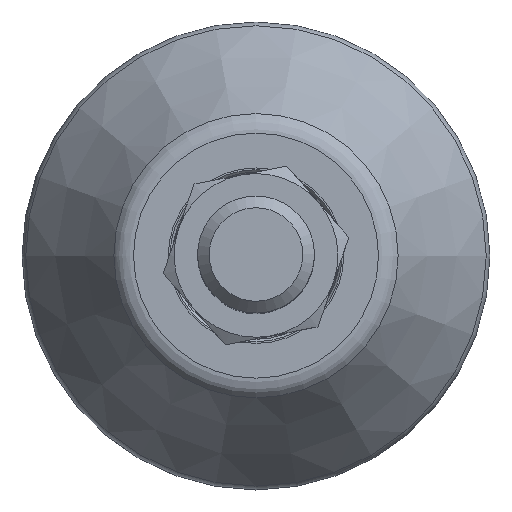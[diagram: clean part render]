
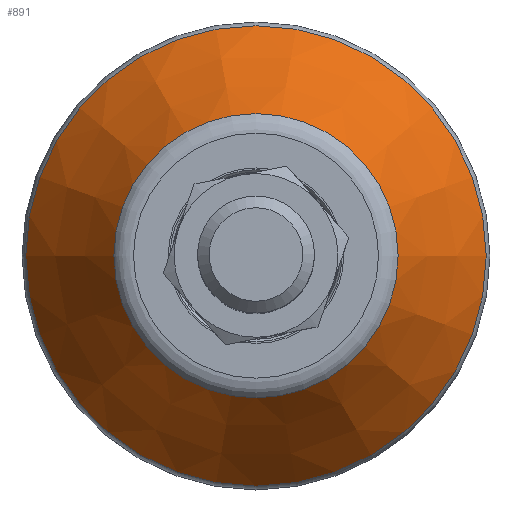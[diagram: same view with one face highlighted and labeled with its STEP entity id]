
A CAD part, top view. The second image highlights one B-rep face of the part: STEP entity #891.
In plain terms, the highlighted conical face has half-angle 33 degrees and reference radius 15.913 mm.
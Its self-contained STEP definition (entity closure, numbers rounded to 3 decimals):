
#891=ADVANCED_FACE('',(#2016,#2018),#2020,.T.);
#2016=FACE_BOUND('',#2017,.T.);
#2017=EDGE_LOOP('',(#2970,#2971));
#2018=FACE_BOUND('',#2019,.T.);
#2019=EDGE_LOOP('',(#2972,#2973));
#2020=CONICAL_SURFACE('',#2021,15.913,0.576);
#2021=AXIS2_PLACEMENT_3D('',#2022,#2023,#2024);
#2022=CARTESIAN_POINT('',(0.,0.,11.293));
#2023=DIRECTION('',(0.,0.,-1.));
#2024=DIRECTION('',(1.,0.,0.));
#2970=ORIENTED_EDGE('',*,*,#3489,.T.);
#2971=ORIENTED_EDGE('',*,*,#3488,.T.);
#2972=ORIENTED_EDGE('',*,*,#3492,.F.);
#2973=ORIENTED_EDGE('',*,*,#3493,.F.);
#3488=EDGE_CURVE('',#4044,#4045,#4046,.T.);
#3489=EDGE_CURVE('',#4045,#4044,#4047,.T.);
#3492=EDGE_CURVE('',#4052,#4053,#4054,.T.);
#3493=EDGE_CURVE('',#4053,#4052,#4055,.T.);
#4044=VERTEX_POINT('',#7005);
#4045=VERTEX_POINT('',#7006);
#4046=CIRCLE('',#7007,19.677);
#4047=CIRCLE('',#7011,19.677);
#4052=VERTEX_POINT('',#7025);
#4053=VERTEX_POINT('',#7026);
#4054=CIRCLE('',#7027,12.149);
#4055=CIRCLE('',#7031,12.149);
#7005=CARTESIAN_POINT('',(-19.677,0.,5.497));
#7006=CARTESIAN_POINT('',(19.677,0.,5.497));
#7007=AXIS2_PLACEMENT_3D('',#7008,#7009,#7010);
#7008=CARTESIAN_POINT('',(0.,0.,5.497));
#7009=DIRECTION('',(0.,0.,1.));
#7010=DIRECTION('',(-1.,0.,0.));
#7011=AXIS2_PLACEMENT_3D('',#7012,#7013,#7014);
#7012=CARTESIAN_POINT('',(0.,0.,5.497));
#7013=DIRECTION('',(0.,0.,1.));
#7014=DIRECTION('',(1.,0.,0.));
#7025=CARTESIAN_POINT('',(-12.149,0.,17.089));
#7026=CARTESIAN_POINT('',(12.149,0.,17.089));
#7027=AXIS2_PLACEMENT_3D('',#7028,#7029,#7030);
#7028=CARTESIAN_POINT('',(0.,0.,17.089));
#7029=DIRECTION('',(0.,0.,1.));
#7030=DIRECTION('',(-1.,0.,0.));
#7031=AXIS2_PLACEMENT_3D('',#7032,#7033,#7034);
#7032=CARTESIAN_POINT('',(0.,0.,17.089));
#7033=DIRECTION('',(0.,0.,1.));
#7034=DIRECTION('',(1.,0.,0.));
